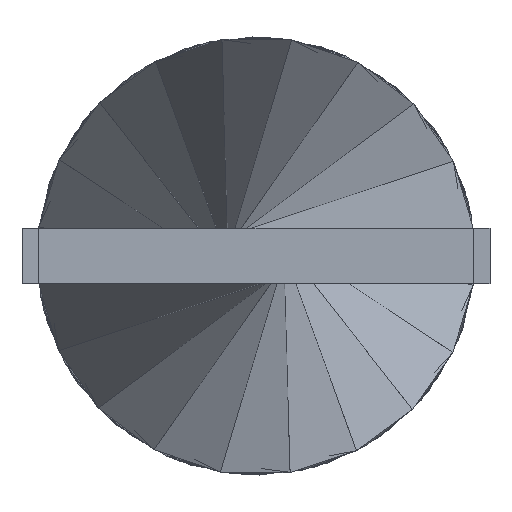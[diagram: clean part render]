
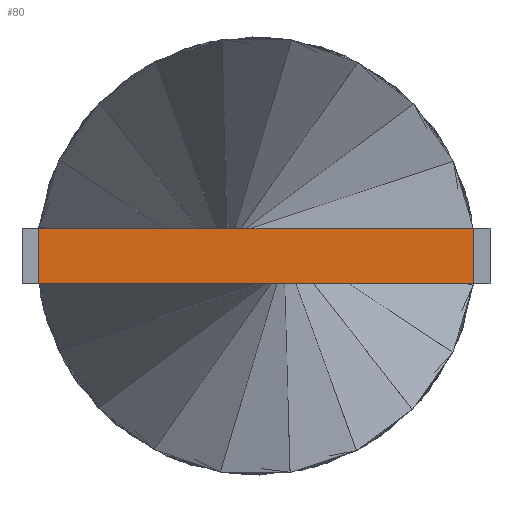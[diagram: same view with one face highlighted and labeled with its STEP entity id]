
A CAD part, front view. The second image highlights one B-rep face of the part: STEP entity #80.
In plain terms, the highlighted planar face has unit normal (0, -1, 0).
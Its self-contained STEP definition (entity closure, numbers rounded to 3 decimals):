
#36 = DIRECTION ( 'NONE',  ( 0., 0., -1. ) ) ;
#74 = CARTESIAN_POINT ( 'NONE',  ( -3.9, 0., -0.5 ) ) ;
#80 = ADVANCED_FACE ( 'NONE', ( #279 ), #854, .T. ) ;
#171 = CARTESIAN_POINT ( 'NONE',  ( 3.9, 0., 0.5 ) ) ;
#273 = VERTEX_POINT ( 'NONE', #1550 ) ;
#279 = FACE_OUTER_BOUND ( 'NONE', #1172, .T. ) ;
#286 = ORIENTED_EDGE ( 'NONE', *, *, #812, .F. ) ;
#295 = VERTEX_POINT ( 'NONE', #74 ) ;
#432 = VECTOR ( 'NONE', #983, 1000. ) ;
#439 = LINE ( 'NONE', #976, #432 ) ;
#483 = LINE ( 'NONE', #1225, #489 ) ;
#489 = VECTOR ( 'NONE', #1100, 1000. ) ;
#718 = LINE ( 'NONE', #1517, #736 ) ;
#736 = VECTOR ( 'NONE', #1364, 1000. ) ;
#762 = LINE ( 'NONE', #1211, #776 ) ;
#776 = VECTOR ( 'NONE', #1159, 1000. ) ;
#812 = EDGE_CURVE ( 'NONE', #273, #1376, #439, .T. ) ;
#854 = PLANE ( 'NONE',  #1134 ) ;
#868 = DIRECTION ( 'NONE',  ( 0., -1., 0. ) ) ;
#876 = CARTESIAN_POINT ( 'NONE',  ( -3.9, 0., -0.5 ) ) ;
#929 = ORIENTED_EDGE ( 'NONE', *, *, #982, .T. ) ;
#968 = VERTEX_POINT ( 'NONE', #1552 ) ;
#976 = CARTESIAN_POINT ( 'NONE',  ( -3.9, 0., 0.5 ) ) ;
#982 = EDGE_CURVE ( 'NONE', #968, #1376, #483, .T. ) ;
#983 = DIRECTION ( 'NONE',  ( 1., 0., 0. ) ) ;
#1100 = DIRECTION ( 'NONE',  ( 0., 0., 1. ) ) ;
#1134 = AXIS2_PLACEMENT_3D ( 'NONE', #876, #868, #36 ) ;
#1159 = DIRECTION ( 'NONE',  ( 1., 0., 0. ) ) ;
#1172 = EDGE_LOOP ( 'NONE', ( #929, #286, #1328, #1223 ) ) ;
#1211 = CARTESIAN_POINT ( 'NONE',  ( -3.9, 0., -0.5 ) ) ;
#1223 = ORIENTED_EDGE ( 'NONE', *, *, #1562, .T. ) ;
#1225 = CARTESIAN_POINT ( 'NONE',  ( 3.9, 0., -0.5 ) ) ;
#1328 = ORIENTED_EDGE ( 'NONE', *, *, #1499, .F. ) ;
#1364 = DIRECTION ( 'NONE',  ( 0., 0., 1. ) ) ;
#1376 = VERTEX_POINT ( 'NONE', #171 ) ;
#1499 = EDGE_CURVE ( 'NONE', #295, #273, #718, .T. ) ;
#1517 = CARTESIAN_POINT ( 'NONE',  ( -3.9, 0., -0.5 ) ) ;
#1550 = CARTESIAN_POINT ( 'NONE',  ( -3.9, 0., 0.5 ) ) ;
#1552 = CARTESIAN_POINT ( 'NONE',  ( 3.9, 0., -0.5 ) ) ;
#1562 = EDGE_CURVE ( 'NONE', #295, #968, #762, .T. ) ;
